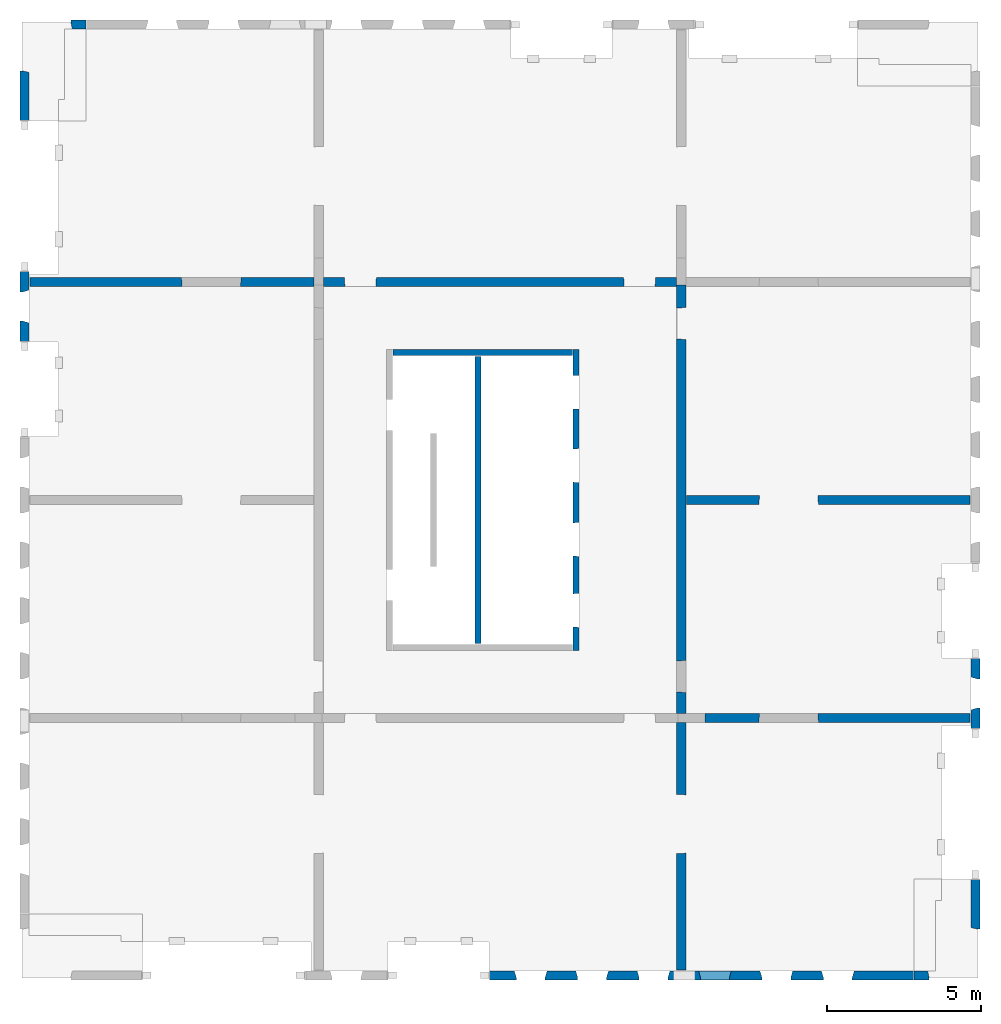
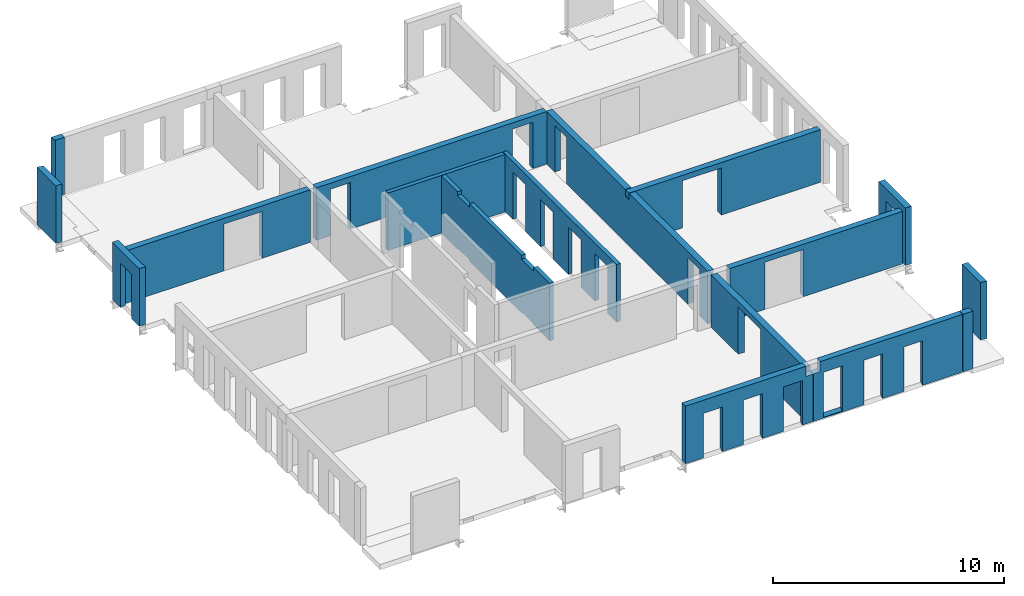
# One storey, part 3 of 4: 17 walls, 36 openings.
"""IFC2X3 building model written with IfcOpenShell, lengths in millimetres."""

from ifc_helpers import new_model, entity, si_unit, converted_unit, derived_unit, direction, frame, frame_2d, origin, origin_2d_with_axis, place, context, subcontext, project, spatial, rectangle, extrude, faceted_brep, material, layer, layer_set, layer_usage, type_object, element, save


model = new_model("IFC2X3")

# Units and contexts
model_context = context("Model", 3, precision=0.01, world=origin(), true_north=direction((6.12303176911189e-17, 1.0)))
body_context = subcontext(model_context, "Body", "Model", "MODEL_VIEW")
ifc_project = project(units=[si_unit("LENGTHUNIT", "METRE", prefix="MILLI"), si_unit("AREAUNIT", "SQUARE_METRE"), si_unit("VOLUMEUNIT", "CUBIC_METRE"), converted_unit("PLANEANGLEUNIT", "DEGREE", entity("IfcRatioMeasure", 0.0174532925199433), si_unit("PLANEANGLEUNIT", "RADIAN"), dimensions=[0, 0, 0, 0, 0, 0, 0]), si_unit("MASSUNIT", "GRAM", prefix="KILO"), derived_unit("MASSDENSITYUNIT", [(si_unit("MASSUNIT", "GRAM", prefix="KILO"), 1), (si_unit("LENGTHUNIT", "METRE"), -3)]), si_unit("TIMEUNIT", "SECOND"), si_unit("FREQUENCYUNIT", "HERTZ"), si_unit("THERMODYNAMICTEMPERATUREUNIT", "DEGREE_CELSIUS"), derived_unit("THERMALTRANSMITTANCEUNIT", [(si_unit("MASSUNIT", "GRAM", prefix="KILO"), 1), (si_unit("THERMODYNAMICTEMPERATUREUNIT", "KELVIN"), -1), (si_unit("TIMEUNIT", "SECOND"), -3)]), derived_unit("VOLUMETRICFLOWRATEUNIT", [(si_unit("LENGTHUNIT", "METRE"), 3), (si_unit("TIMEUNIT", "SECOND"), -1)]), si_unit("ELECTRICCURRENTUNIT", "AMPERE"), si_unit("ELECTRICVOLTAGEUNIT", "VOLT"), si_unit("POWERUNIT", "WATT"), si_unit("FORCEUNIT", "NEWTON", prefix="KILO"), si_unit("ILLUMINANCEUNIT", "LUX"), si_unit("LUMINOUSFLUXUNIT", "LUMEN"), si_unit("LUMINOUSINTENSITYUNIT", "CANDELA"), derived_unit("USERDEFINED", [(si_unit("MASSUNIT", "GRAM", prefix="KILO"), -1), (si_unit("LENGTHUNIT", "METRE"), -2), (si_unit("TIMEUNIT", "SECOND"), 3), (si_unit("LUMINOUSFLUXUNIT", "LUMEN"), 1)]), derived_unit("LINEARVELOCITYUNIT", [(si_unit("LENGTHUNIT", "METRE"), 1), (si_unit("TIMEUNIT", "SECOND"), -1)]), si_unit("PRESSUREUNIT", "PASCAL"), derived_unit("USERDEFINED", [(si_unit("LENGTHUNIT", "METRE"), -2), (si_unit("MASSUNIT", "GRAM", prefix="KILO"), 1), (si_unit("TIMEUNIT", "SECOND"), -2)])], contexts=[model_context])

# Site, building, storey
site_placement = place(None, origin())
site = spatial("IfcSite", under=ifc_project, at=site_placement, Name="Default", CompositionType="ELEMENT")
building_placement = place(site_placement, origin())
building = spatial("IfcBuilding", under=site, at=building_placement, Name="niet gebruiken", CompositionType="ELEMENT")
storey_placement = place(building_placement, frame((0.0, 0.0, 128160.0)))
storey = spatial("IfcBuildingStorey", under=building, at=storey_placement, Name="41 eenenveertigste verdieping", CompositionType="ELEMENT", Elevation=128160.0)

# Wall, openings
ifc_material = material(Name="NLRS_f2_beton prefab")
ifc_layer_1 = layer(ifc_material, 200.0)
ifc_layer_set_1 = layer_set([ifc_layer_1], Name="Basic Wall:NLRS_22.21_WA_beton prefab d=200_gen")
ifc_layer_usage_1 = layer_usage(ifc_layer_set_1, "AXIS2", "NEGATIVE", 100.0)
wall_type_1 = type_object("IfcWallType", Name="Basic Wall:NLRS_22.21_WA_beton prefab d=200_gen", PredefinedType="STANDARD", material=ifc_layer_set_1)
wall_1_placement = place(storey_placement, frame((144230.0, 22400.0, -50.0), z_axis=(0.0, 0.0, 1.0), x_axis=(0.0, -1.0, 0.0)))
wall_1 = element("IfcWallStandardCase", 1, at=wall_1_placement, inside=storey, type_object=wall_type_1, material=ifc_layer_usage_1, Name="Basic Wall:NLRS_22.21_WA_beton prefab d=200_gen", ObjectType="Basic Wall:NLRS_22.21_WA_beton prefab d=200_gen", context=body_context, shape_type="SweptSolid", body=[
    extrude(rectangle(XDim=9800.0, YDim=199.999999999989, at=frame_2d((4900.0, -3.69482222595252e-13), x_axis=(-1.0, 0.0))), origin(), (0.0, 0.0, 1.0), 3040.0),
])
opening_1_placement = place(wall_1_placement, frame((9047.0, -100.0, 0.0)))
element("IfcOpeningElement", 2, at=opening_1_placement, cuts=wall_1, Name="Basic Wall:NLRS_22.21_WA_beton prefab d=200_gen", ObjectType="Opening", context=body_context, shape_type="Brep", body=[
    faceted_brep([(-1104.0, 200.0, 2502.0), (-1104.0, 200.0, 0.0), (-1092.0, 0.0, 0.0), (-1092.0, 0.0, 2490.0), (0.0, 200.0, 0.0), (-12.0, 0.0, 0.0), (-12.0, 0.0, 2490.0), (0.0, 200.0, 2502.0)], [[[0, 1, 2, 3]], [[1, 4, 5, 2]], [[6, 3, 2, 5]], [[7, 4, 1, 0]], [[7, 0, 3, 6]], [[4, 7, 6, 5]]]),
])
opening_2_placement = place(wall_1_placement, frame((6737.0, -100.0, 0.0)))
element("IfcOpeningElement", 3, at=opening_2_placement, cuts=wall_1, Name="Basic Wall:NLRS_22.21_WA_beton prefab d=200_gen", ObjectType="Opening", context=body_context, shape_type="Brep", body=[
    faceted_brep([(-1104.0, 200.0, 2502.0), (-1104.0, 200.0, 0.0), (-1092.0, 0.0, 0.0), (-1092.0, 0.0, 2490.0), (0.0, 200.0, 0.0), (-12.0, 0.0, 0.0), (-12.0, 0.0, 2490.0), (0.0, 200.0, 2502.0)], [[[0, 1, 2, 3]], [[1, 4, 5, 2]], [[6, 3, 2, 5]], [[7, 4, 1, 0]], [[7, 0, 3, 6]], [[4, 7, 6, 5]]]),
])
opening_3_placement = place(wall_1_placement, frame((4332.0, -100.0, 0.0)))
element("IfcOpeningElement", 4, at=opening_3_placement, cuts=wall_1, Name="Basic Wall:NLRS_22.21_WA_beton prefab d=200_gen", ObjectType="Opening", context=body_context, shape_type="Brep", body=[
    faceted_brep([(-1104.0, 200.0, 2502.0), (-1104.0, 200.0, 0.0), (-1092.0, 0.0, 0.0), (-1092.0, 0.0, 2490.0), (0.0, 200.0, 0.0), (-12.0, 0.0, 0.0), (-12.0, 0.0, 2490.0), (0.0, 200.0, 2502.0)], [[[0, 1, 2, 3]], [[1, 4, 5, 2]], [[6, 3, 2, 5]], [[7, 4, 1, 0]], [[7, 0, 3, 6]], [[4, 7, 6, 5]]]),
])
opening_4_placement = place(wall_1_placement, frame((1942.0, -100.0, 0.0)))
element("IfcOpeningElement", 5, at=opening_4_placement, cuts=wall_1, Name="Basic Wall:NLRS_22.21_WA_beton prefab d=200_gen", ObjectType="Opening", context=body_context, shape_type="Brep", body=[
    faceted_brep([(-1104.0, 200.0, 2502.0), (-1104.0, 200.0, 0.0), (-1092.0, 0.0, 0.0), (-1092.0, 0.0, 2490.0), (0.0, 200.0, 0.0), (-12.0, 0.0, 0.0), (-12.0, 0.0, 2490.0), (0.0, 200.0, 2502.0)], [[[0, 1, 2, 3]], [[1, 4, 5, 2]], [[6, 3, 2, 5]], [[7, 4, 1, 0]], [[7, 0, 3, 6]], [[4, 7, 6, 5]]]),
])

ifc_layer_usage_2 = layer_usage(ifc_layer_set_1, "AXIS2", "NEGATIVE", 100.0)
wall_2_placement = place(storey_placement, frame((141030.0, 22180.0, -50.0), z_axis=(0.0, 0.0, 1.0), x_axis=(0.0, -1.0, 0.0)))
wall_2 = element("IfcWallStandardCase", 6, at=wall_2_placement, inside=storey, type_object=wall_type_1, material=ifc_layer_usage_2, Name="Basic Wall:NLRS_22.21_WA_beton prefab d=200_gen", ObjectType="Basic Wall:NLRS_22.21_WA_beton prefab d=200_gen", context=body_context, shape_type="SweptSolid", body=[
    extrude(rectangle(XDim=9360.0, YDim=199.999999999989, at=frame_2d((4680.0, -2.8421709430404e-14), x_axis=(-1.0, 0.0))), origin(), (0.0, 0.0, 1.0), 3040.0),
])
opening_5_placement = place(wall_2_placement, origin())
element("IfcOpeningElement", 7, at=opening_5_placement, cuts=wall_2, Name="Basic Wall:NLRS_22.21_WA_beton prefab d=200_gen", ObjectType="Opening", context=body_context, shape_type="SweptSolid", body=[
    extrude(rectangle(XDim=70.0000000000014, YDim=1044.00000000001, at=frame_2d((-8.66506866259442e-12, 0.0), x_axis=(1.0, 0.0))), frame((7452.0, -100.0, 35.0), z_axis=(0.0, 1.0, 0.0), x_axis=(0.0, 0.0, -1.0)), (0.0, 0.0, 1.0), 199.999999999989),
])
opening_6_placement = place(wall_2_placement, origin())
element("IfcOpeningElement", 8, at=opening_6_placement, cuts=wall_2, Name="Basic Wall:NLRS_22.21_WA_beton prefab d=200_gen", ObjectType="Opening", context=body_context, shape_type="SweptSolid", body=[
    extrude(rectangle(XDim=70.0000000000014, YDim=1044.00000000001, at=frame_2d((-8.66506866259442e-12, 0.0), x_axis=(1.0, 0.0))), frame((1908.0, -100.0, 35.0), z_axis=(0.0, 1.0, 0.0), x_axis=(0.0, 0.0, -1.0)), (0.0, 0.0, 1.0), 199.999999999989),
])
opening_7_placement = place(wall_2_placement, origin())
element("IfcOpeningElement", 9, at=opening_7_placement, cuts=wall_2, Name="Basic Wall:NLRS_22.21_WA_beton prefab d=200_gen", ObjectType="Opening", context=body_context, shape_type="SweptSolid", body=[
    extrude(rectangle(XDim=200.000000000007, YDim=1044.00000000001, at=frame_2d((-8.66862137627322e-12, 0.0), x_axis=(1.0, 0.0))), frame((1908.0, -100.0, 2940.0), z_axis=(0.0, 1.0, 0.0), x_axis=(0.0, 0.0, -1.0)), (0.0, 0.0, 1.0), 199.999999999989),
])
opening_8_placement = place(wall_2_placement, origin())
element("IfcOpeningElement", 10, at=opening_8_placement, cuts=wall_2, Name="Basic Wall:NLRS_22.21_WA_beton prefab d=200_gen", ObjectType="Opening", context=body_context, shape_type="SweptSolid", body=[
    extrude(rectangle(XDim=200.000000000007, YDim=1044.00000000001, at=frame_2d((-8.66862137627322e-12, 0.0), x_axis=(1.0, 0.0))), frame((7452.0, -100.0, 2940.0), z_axis=(0.0, 1.0, 0.0), x_axis=(0.0, 0.0, -1.0)), (0.0, 0.0, 1.0), 199.999999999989),
])
opening_9_placement = place(wall_2_placement, origin())
element("IfcOpeningElement", 11, at=opening_9_placement, cuts=wall_2, Name="Basic Wall:NLRS_22.21_WA_beton prefab d=200_gen", ObjectType="Recess", context=body_context, shape_type="SweptSolid", body=[
    extrude(rectangle(XDim=399.999999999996, YDim=280.000000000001, at=frame_2d((-2.1600499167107e-12, -8.66862137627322e-12), x_axis=(0.0, 1.0))), frame((770.0, -60.0, 438.0), z_axis=(0.0, 1.0, 0.0), x_axis=(1.0, 0.0, 0.0)), (0.0, 0.0, 1.0), 159.999999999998),
])
opening_10_placement = place(wall_2_placement, origin())
element("IfcOpeningElement", 12, at=opening_10_placement, cuts=wall_2, Name="Basic Wall:NLRS_22.21_WA_beton prefab d=200_gen", ObjectType="Recess", context=body_context, shape_type="SweptSolid", body=[
    extrude(rectangle(XDim=399.999999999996, YDim=280.000000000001, at=frame_2d((-2.1600499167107e-12, -8.66862137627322e-12), x_axis=(0.0, 1.0))), frame((1570.0, -60.0, 438.0), z_axis=(0.0, 1.0, 0.0), x_axis=(1.0, 0.0, 0.0)), (0.0, 0.0, 1.0), 159.999999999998),
])
opening_11_placement = place(wall_2_placement, origin())
element("IfcOpeningElement", 13, at=opening_11_placement, cuts=wall_2, Name="Basic Wall:NLRS_22.21_WA_beton prefab d=200_gen", ObjectType="Recess", context=body_context, shape_type="SweptSolid", body=[
    extrude(rectangle(XDim=399.999999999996, YDim=279.999999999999, at=frame_2d((-1.08002495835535e-12, -8.66862137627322e-12), x_axis=(0.0, 1.0))), frame((3160.0, -60.0, 438.0), z_axis=(0.0, 1.0, 0.0), x_axis=(1.0, 0.0, 0.0)), (0.0, 0.0, 1.0), 159.999999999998),
])
opening_12_placement = place(wall_2_placement, origin())
element("IfcOpeningElement", 14, at=opening_12_placement, cuts=wall_2, Name="Basic Wall:NLRS_22.21_WA_beton prefab d=200_gen", ObjectType="Recess", context=body_context, shape_type="SweptSolid", body=[
    extrude(rectangle(XDim=399.999999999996, YDim=279.999999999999, at=frame_2d((1.08002495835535e-12, -8.66862137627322e-12), x_axis=(0.0, 1.0))), frame((3960.0, -60.0, 438.0), z_axis=(0.0, 1.0, 0.0), x_axis=(1.0, 0.0, 0.0)), (0.0, 0.0, 1.0), 159.999999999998),
])

# Wall
ifc_layer_usage_3 = layer_usage(ifc_layer_set_1, "AXIS2", "NEGATIVE", 100.0)
wall_3_placement = place(storey_placement, frame((138270.0, 22300.0, -50.0)))
element("IfcWallStandardCase", 15, at=wall_3_placement, inside=storey, type_object=wall_type_1, material=ifc_layer_usage_3, Name="Basic Wall:NLRS_22.21_WA_beton prefab d=200_gen", ObjectType="Basic Wall:NLRS_22.21_WA_beton prefab d=200_gen", context=body_context, shape_type="SweptSolid", body=[
    extrude(rectangle(XDim=5839.99999999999, YDim=199.999999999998, at=frame_2d((2919.99999999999, -7.60280727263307e-13), x_axis=(-1.0, 0.0))), origin(), (0.0, 0.0, 1.0), 3040.0),
])

# Wall, opening
ifc_layer_2 = layer(ifc_material, 300.0)
ifc_layer_set_2 = layer_set([ifc_layer_2], Name="Basic Wall:NLRS_22.21_WA_beton prefab d=300_gen")
ifc_layer_usage_4 = layer_usage(ifc_layer_set_2, "AXIS2", "NEGATIVE", 150.0)
wall_type_2 = type_object("IfcWallType", Name="Basic Wall:NLRS_22.21_WA_beton prefab d=300_gen", PredefinedType="STANDARD", material=ifc_layer_set_2)
wall_4_placement = place(storey_placement, frame((147650.0, 10250.0, -70.0), z_axis=(0.0, 0.0, 1.0), x_axis=(0.0, -1.0, 0.0)))
wall_4 = element("IfcWallStandardCase", 16, at=wall_4_placement, inside=storey, type_object=wall_type_2, material=ifc_layer_usage_4, Name="Basic Wall:NLRS_22.21_WA_beton prefab d=300_gen", ObjectType="Basic Wall:NLRS_22.21_WA_beton prefab d=300_gen", context=body_context, shape_type="SweptSolid", body=[
    extrude(rectangle(XDim=8059.99999999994, YDim=300.000000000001, at=frame_2d((4029.99999999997, 3.69482222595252e-13), x_axis=(-1.0, 0.0))), origin(), (0.0, 0.0, 1.0), 2769.99999999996),
])
opening_13_placement = place(wall_4_placement, frame((4268.0, -150.0, 0.0)))
element("IfcOpeningElement", 17, at=opening_13_placement, cuts=wall_4, Name="Basic Wall:NLRS_22.21_WA_beton prefab d=300_gen", ObjectType="Opening", context=body_context, shape_type="Brep", body=[
    faceted_brep([(-18.0, 300.0, 2470.0), (-18.0, 300.0, 0.0), (-1918.0, 300.0, 0.0), (-1918.0, 300.0, 2470.0), (0.0, 0.0, 2488.0), (-1936.0, 0.0, 2488.0), (-1936.0, 0.0, 0.0), (0.0, 0.0, 0.0)], [[[0, 1, 2, 3]], [[4, 5, 6, 7]], [[4, 0, 3, 5]], [[5, 3, 2, 6]], [[6, 2, 1, 7]], [[7, 1, 0, 4]]]),
])

# Wall, openings
ifc_layer_usage_5 = layer_usage(ifc_layer_set_2, "AXIS2", "NEGATIVE", 150.0)
wall_5_placement = place(storey_placement, frame((157060.0, 17500.0, -70.0), z_axis=(0.0, 0.0, 1.0), x_axis=(-1.0, 0.0, 0.0)))
wall_5 = element("IfcWallStandardCase", 18, at=wall_5_placement, inside=storey, type_object=wall_type_2, material=ifc_layer_usage_5, Name="Basic Wall:NLRS_22.21_WA_beton prefab d=300_gen", ObjectType="Basic Wall:NLRS_22.21_WA_beton prefab d=300_gen", context=body_context, shape_type="SweptSolid", body=[
    extrude(rectangle(XDim=9559.9999999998, YDim=300.000000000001, at=frame_2d((4779.9999999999, -1.84741111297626e-13), x_axis=(-1.0, 0.0))), origin(), (0.0, 0.0, 1.0), 2770.00000000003),
])
opening_14_placement = place(wall_5_placement, frame((6878.0, 150.0, 0.0)))
element("IfcOpeningElement", 19, at=opening_14_placement, cuts=wall_5, Name="Basic Wall:NLRS_22.21_WA_beton prefab d=300_gen", ObjectType="Opening", context=body_context, shape_type="Brep", body=[
    faceted_brep([(-18.0, -300.0, 2470.0), (-1918.0, -300.0, 2470.0), (-1918.0, -300.0, 0.0), (-18.0, -300.0, 0.0), (0.0, 0.0, 2488.0), (0.0, 0.0, 0.0), (-1936.0, 0.0, 0.0), (-1936.0, 0.0, 2488.0)], [[[0, 1, 2, 3]], [[4, 5, 6, 7]], [[4, 7, 1, 0]], [[7, 6, 2, 1]], [[6, 5, 3, 2]], [[5, 4, 0, 3]]]),
])
opening_15_placement = place(wall_5_placement, origin())
element("IfcOpeningElement", 20, at=opening_15_placement, cuts=wall_5, Name="Basic Wall:NLRS_22.21_WA_beton prefab d=300_gen", ObjectType="Opening", context=body_context, shape_type="SweptSolid", body=[
    extrude(rectangle(XDim=2440.0, YDim=319.999999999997, at=frame_2d((0.0, 0.0), x_axis=(0.0, 1.0))), frame((9400.0, 150.0, 1220.0), z_axis=(0.0, -1.0, 0.0), x_axis=(1.0, 0.0, 0.0)), (0.0, 0.0, 1.0), 300.0),
])

# Wall, opening
ifc_layer_usage_6 = layer_usage(ifc_layer_set_2, "AXIS2", "NEGATIVE", 150.0)
wall_6_placement = place(storey_placement, frame((135700.0, 24600.0, -70.0), z_axis=(0.0, 0.0, 1.0), x_axis=(-1.0, 0.0, 0.0)))
wall_6 = element("IfcWallStandardCase", 21, at=wall_6_placement, inside=storey, type_object=wall_type_2, material=ifc_layer_usage_6, Name="Basic Wall:NLRS_22.21_WA_beton prefab d=300_gen", ObjectType="Basic Wall:NLRS_22.21_WA_beton prefab d=300_gen", context=body_context, shape_type="SweptSolid", body=[
    extrude(rectangle(XDim=9259.99999999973, YDim=300.000000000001, at=frame_2d((4629.99999999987, -2.41584530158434e-13), x_axis=(-1.0, 0.0))), origin(), (0.0, 0.0, 1.0), 2769.99999999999),
])
opening_16_placement = place(wall_6_placement, frame((4318.0, 150.0, 0.0)))
element("IfcOpeningElement", 22, at=opening_16_placement, cuts=wall_6, Name="Basic Wall:NLRS_22.21_WA_beton prefab d=300_gen", ObjectType="Opening", context=body_context, shape_type="Brep", body=[
    faceted_brep([(-1918.0, 0.0, 2470.0), (-18.0, 0.0, 2470.0), (-18.0, 0.0, 0.0), (-1918.0, 0.0, 0.0), (-1936.0, -300.0, 2488.0), (-1936.0, -300.0, 0.0), (0.0, -300.0, 0.0), (0.0, -300.0, 2488.0)], [[[0, 1, 2, 3]], [[4, 5, 6, 7]], [[4, 7, 1, 0]], [[7, 6, 2, 1]], [[6, 5, 3, 2]], [[5, 4, 0, 3]]]),
])

ifc_layer_usage_7 = layer_usage(ifc_layer_set_2, "AXIS2", "NEGATIVE", 150.0)
wall_7_placement = place(storey_placement, frame((148430.0, 10400.0, -70.0)))
wall_7 = element("IfcWallStandardCase", 23, at=wall_7_placement, inside=storey, type_object=wall_type_2, material=ifc_layer_usage_7, Name="Basic Wall:NLRS_22.21_WA_beton prefab d=300_gen", ObjectType="Basic Wall:NLRS_22.21_WA_beton prefab d=300_gen", context=body_context, shape_type="SweptSolid", body=[
    extrude(rectangle(XDim=8630.00000000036, YDim=300.000000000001, at=frame_2d((4315.00000000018, 0.0), x_axis=(-1.0, 0.0))), origin(), (0.0, 0.0, 1.0), 2769.99999999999),
])
opening_17_placement = place(wall_7_placement, frame((1752.0, -150.0, 0.0)))
element("IfcOpeningElement", 24, at=opening_17_placement, cuts=wall_7, Name="Basic Wall:NLRS_22.21_WA_beton prefab d=300_gen", ObjectType="Opening", context=body_context, shape_type="Brep", body=[
    faceted_brep([(18.0, 300.0, 2470.0), (1918.0, 300.0, 2470.0), (1918.0, 300.0, 0.0), (18.0, 300.0, 0.0), (0.0, 0.0, 2488.0), (0.0, 0.0, 0.0), (1936.0, 0.0, 0.0), (1936.0, 0.0, 2488.0)], [[[0, 1, 2, 3]], [[4, 5, 6, 7]], [[4, 7, 1, 0]], [[7, 6, 2, 1]], [[6, 5, 3, 2]], [[5, 4, 0, 3]]]),
])

# Wall, openings
ifc_layer_usage_8 = layer_usage(ifc_layer_set_2, "AXIS2", "NEGATIVE", 150.0)
wall_8_placement = place(storey_placement, frame((147650.0, 24500.0, -70.0), z_axis=(0.0, 0.0, 1.0), x_axis=(0.0, -1.0, 0.0)))
wall_8 = element("IfcWallStandardCase", 25, at=wall_8_placement, inside=storey, type_object=wall_type_2, material=ifc_layer_usage_8, Name="Basic Wall:NLRS_22.21_WA_beton prefab d=300_gen", ObjectType="Basic Wall:NLRS_22.21_WA_beton prefab d=300_gen", context=body_context, shape_type="SweptSolid", body=[
    extrude(rectangle(XDim=13949.9999999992, YDim=300.000000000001, at=frame_2d((6974.9999999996, 4.2632564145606e-14), x_axis=(-1.0, 0.0))), origin(), (0.0, 0.0, 1.0), 2770.00000000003),
])
opening_18_placement = place(wall_8_placement, frame((13268.0, -150.0, 0.0)))
element("IfcOpeningElement", 26, at=opening_18_placement, cuts=wall_8, Name="Basic Wall:NLRS_22.21_WA_beton prefab d=300_gen", ObjectType="Opening", context=body_context, shape_type="Brep", body=[
    faceted_brep([(-1042.0, 300.0, 2466.0), (-1042.0, 300.0, 0.0), (-1024.0, 0.0, 0.0), (-1024.0, 0.0, 2448.0), (0.0, 300.0, 0.0), (-18.0, 0.0, 0.0), (-18.0, 0.0, 2448.0), (0.0, 300.0, 2466.0)], [[[0, 1, 2, 3]], [[1, 4, 5, 2]], [[6, 3, 2, 5]], [[7, 4, 1, 0]], [[7, 0, 3, 6]], [[4, 7, 6, 5]]]),
])
opening_19_placement = place(wall_8_placement, frame((1774.0, -150.0, 0.0)))
element("IfcOpeningElement", 27, at=opening_19_placement, cuts=wall_8, Name="Basic Wall:NLRS_22.21_WA_beton prefab d=300_gen", ObjectType="Opening", context=body_context, shape_type="Brep", body=[
    faceted_brep([(-1042.0, 300.0, 2466.0), (-1042.0, 300.0, 0.0), (-1024.0, 0.0, 0.0), (-1024.0, 0.0, 2448.0), (0.0, 300.0, 0.0), (-18.0, 0.0, 0.0), (-18.0, 0.0, 2448.0), (0.0, 300.0, 2466.0)], [[[0, 1, 2, 3]], [[1, 4, 5, 2]], [[6, 3, 2, 5]], [[7, 4, 1, 0]], [[7, 0, 3, 6]], [[4, 7, 6, 5]]]),
])
opening_20_placement = place(wall_8_placement, origin())
element("IfcOpeningElement", 28, at=opening_20_placement, cuts=wall_8, Name="Basic Wall:NLRS_22.21_WA_beton prefab d=300_gen", ObjectType="Opening", context=body_context, shape_type="SweptSolid", body=[
    extrude(rectangle(XDim=350.000000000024, YDim=340.000000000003, at=frame_2d((-1.08002495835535e-12, -1.73230318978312e-11), x_axis=(0.0, 1.0))), frame((7000.0, 150.0, 2595.0), z_axis=(0.0, -1.0, 0.0), x_axis=(-1.0, 0.0, 0.0)), (0.0, 0.0, 1.0), 300.0),
])

ifc_layer_usage_9 = layer_usage(ifc_layer_set_2, "AXIS2", "NEGATIVE", 150.0)
wall_9_placement = place(storey_placement, frame((136000.0, 24600.0, -70.0)))
wall_9 = element("IfcWallStandardCase", 29, at=wall_9_placement, inside=storey, type_object=wall_type_2, material=ifc_layer_usage_9, Name="Basic Wall:NLRS_22.21_WA_beton prefab d=300_gen", ObjectType="Basic Wall:NLRS_22.21_WA_beton prefab d=300_gen", context=body_context, shape_type="SweptSolid", body=[
    extrude(rectangle(XDim=11500.0, YDim=300.000000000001, at=frame_2d((5750.0, -1.08002495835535e-12), x_axis=(-1.0, 0.0))), origin(), (0.0, 0.0, 1.0), 2769.99999999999),
])
opening_21_placement = place(wall_9_placement, frame((682.0, -150.0, 0.0)))
element("IfcOpeningElement", 30, at=opening_21_placement, cuts=wall_9, Name="Basic Wall:NLRS_22.21_WA_beton prefab d=300_gen", ObjectType="Opening", context=body_context, shape_type="Brep", body=[
    faceted_brep([(0.0, 300.0, 2466.0), (0.0, 300.0, 0.0), (18.0, 0.0, 0.0), (18.0, 0.0, 2448.0), (1042.0, 300.0, 0.0), (1024.0, 0.0, 0.0), (1024.0, 0.0, 2448.0), (1042.0, 300.0, 2466.0)], [[[0, 1, 2, 3]], [[1, 4, 5, 2]], [[6, 3, 2, 5]], [[7, 4, 1, 0]], [[7, 0, 3, 6]], [[4, 7, 6, 5]]]),
])
opening_22_placement = place(wall_9_placement, frame((9776.0, -150.0, 0.0)))
element("IfcOpeningElement", 31, at=opening_22_placement, cuts=wall_9, Name="Basic Wall:NLRS_22.21_WA_beton prefab d=300_gen", ObjectType="Opening", context=body_context, shape_type="Brep", body=[
    faceted_brep([(0.0, 300.0, 2466.0), (0.0, 300.0, 0.0), (18.0, 0.0, 0.0), (18.0, 0.0, 2448.0), (1042.0, 300.0, 0.0), (1024.0, 0.0, 0.0), (1024.0, 0.0, 2448.0), (1042.0, 300.0, 2466.0)], [[[0, 1, 2, 3]], [[1, 4, 5, 2]], [[6, 3, 2, 5]], [[7, 4, 1, 0]], [[7, 0, 3, 6]], [[4, 7, 6, 5]]]),
])

# Wall, opening
ifc_layer_3 = layer(ifc_material, 300.0)
ifc_layer_set_3 = layer_set([ifc_layer_3], Name="Basic Wall:NLRS_21.21_WA_beton prefab d=300/320_gen")
ifc_layer_usage_10 = layer_usage(ifc_layer_set_3, "AXIS2", "NEGATIVE", 150.0)
wall_type_3 = type_object("IfcWallType", Name="Basic Wall:NLRS_21.21_WA_beton prefab d=300/320_gen", PredefinedType="STANDARD", material=ifc_layer_set_3)
wall_10_placement = place(storey_placement, frame((157230.0, 12360.0, -50.0), z_axis=(0.0, 0.0, 1.0), x_axis=(0.0, -1.0, 0.0)))
wall_10 = element("IfcWallStandardCase", 32, at=wall_10_placement, inside=storey, type_object=wall_type_3, material=ifc_layer_usage_10, Name="Basic Wall:NLRS_21.21_WA_beton prefab d=300/320_gen", ObjectType="Basic Wall:NLRS_21.21_WA_beton prefab d=300/320_gen", context=body_context, shape_type="SweptSolid", body=[
    extrude(rectangle(XDim=2320.00000000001, YDim=300.000000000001, at=frame_2d((1160.0, -8.38440428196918e-12), x_axis=(-1.0, 0.0))), origin(), (0.0, 0.0, 1.0), 3040.0),
])
opening_23_placement = place(wall_10_placement, frame((1695.0, -150.0, -20.0)))
element("IfcOpeningElement", 33, at=opening_23_placement, cuts=wall_10, Name="Basic Wall:NLRS_21.21_WA_beton prefab d=300/320_gen", ObjectType="Opening", context=body_context, shape_type="Brep", body=[
    faceted_brep([(-1070.0, 0.0, 2405.0), (-1070.0, 0.0, 0.0), (0.0, 0.0, 0.0), (0.0, 0.0, 2405.0), (-65.0, 219.0, 2370.0), (-1005.0, 219.0, 2370.0), (-65.0, 219.0, 0.0), (-1005.0, 219.0, 0.0), (-1005.0, 300.0, 0.0), (-65.0, 300.0, 0.0), (-1005.0, 300.0, 2370.0), (-65.0, 300.0, 2370.0)], [[[0, 1, 2, 3]], [[3, 4, 5, 0]], [[2, 6, 4, 3]], [[1, 7, 8, 9, 6, 2]], [[0, 5, 7, 1]], [[10, 11, 9, 8]], [[10, 5, 4, 11]], [[11, 4, 6, 9]], [[8, 7, 5, 10]]]),
])

ifc_layer_usage_11 = layer_usage(ifc_layer_set_3, "AXIS2", "NEGATIVE", 150.0)
wall_11_placement = place(storey_placement, frame((126270.0, 22640.0, -50.0), z_axis=(0.0, 0.0, 1.0), x_axis=(0.0, 1.0, 0.0)))
wall_11 = element("IfcWallStandardCase", 34, at=wall_11_placement, inside=storey, type_object=wall_type_3, material=ifc_layer_usage_11, Name="Basic Wall:NLRS_21.21_WA_beton prefab d=300/320_gen", ObjectType="Basic Wall:NLRS_21.21_WA_beton prefab d=300/320_gen", context=body_context, shape_type="SweptSolid", body=[
    extrude(rectangle(XDim=2320.0, YDim=300.000000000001, at=frame_2d((1160.0, -3.60955709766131e-12), x_axis=(-1.0, 0.0))), origin(), (0.0, 0.0, 1.0), 3040.0),
])
opening_24_placement = place(wall_11_placement, frame((625.0, 150.0, -20.0)))
element("IfcOpeningElement", 35, at=opening_24_placement, cuts=wall_11, Name="Basic Wall:NLRS_21.21_WA_beton prefab d=300/320_gen", ObjectType="Opening", context=body_context, shape_type="Brep", body=[
    faceted_brep([(0.0, -300.0, 2405.0), (0.0, -300.0, 0.0), (1070.0, -300.0, 0.0), (1070.0, -300.0, 2405.0), (1005.0, -81.0, 2370.0), (65.0, -81.0, 2370.0), (1005.0, -81.0, 0.0), (65.0, -81.0, 0.0), (65.0, 0.0, 0.0), (1005.0, 0.0, 0.0), (65.0, 0.0, 2370.0), (1005.0, 0.0, 2370.0)], [[[0, 1, 2, 3]], [[3, 4, 5, 0]], [[2, 6, 4, 3]], [[1, 7, 8, 9, 6, 2]], [[0, 5, 7, 1]], [[10, 11, 9, 8]], [[10, 5, 4, 11]], [[11, 4, 6, 9]], [[8, 7, 5, 10]]]),
])

# Wall, openings
ifc_layer_usage_12 = layer_usage(ifc_layer_set_3, "AXIS2", "NEGATIVE", 150.0)
wall_12_placement = place(storey_placement, frame((155210.0, 2020.0, -50.0), z_axis=(0.0, 0.0, 1.0), x_axis=(-1.0, 0.0, 0.0)))
wall_12 = element("IfcWallStandardCase", 36, at=wall_12_placement, inside=storey, type_object=wall_type_3, material=ifc_layer_usage_12, Name="Basic Wall:NLRS_21.21_WA_beton prefab d=300/320_gen", ObjectType="Basic Wall:NLRS_21.21_WA_beton prefab d=300/320_gen", context=body_context, shape_type="SweptSolid", body=[
    extrude(rectangle(XDim=7449.99999999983, YDim=300.0, at=frame_2d((3724.99999999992, 5.6843418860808e-14), x_axis=(-1.0, 0.0))), origin(), (0.0, 0.0, 1.0), 3040.0),
])
opening_25_placement = place(wall_12_placement, frame((4995.0, 150.0, -20.0)))
element("IfcOpeningElement", 37, at=opening_25_placement, cuts=wall_12, Name="Basic Wall:NLRS_21.21_WA_beton prefab d=300/320_gen", ObjectType="Opening", context=body_context, shape_type="Brep", body=[
    faceted_brep([(0.0, -300.0, 2405.0), (-1070.0, -300.0, 2405.0), (-1070.0, -300.0, 0.0), (0.0, -300.0, 0.0), (-65.0, -81.0, 2370.0), (-1005.0, -81.0, 2370.0), (-1005.0, -81.0, 0.0), (-1005.0, 0.0, 0.0), (-65.0, 0.0, 0.0), (-65.0, -81.0, 0.0), (-65.0, 0.0, 2370.0), (-1005.0, 0.0, 2370.0)], [[[0, 1, 2, 3]], [[1, 0, 4, 5]], [[2, 1, 5, 6]], [[3, 2, 6, 7, 8, 9]], [[0, 3, 9, 4]], [[10, 8, 7, 11]], [[10, 11, 5, 4]], [[11, 7, 6, 5]], [[8, 10, 4, 9]]]),
])
opening_26_placement = place(wall_12_placement, frame((2995.0, 150.0, -20.0)))
element("IfcOpeningElement", 38, at=opening_26_placement, cuts=wall_12, Name="Basic Wall:NLRS_21.21_WA_beton prefab d=300/320_gen", ObjectType="Opening", context=body_context, shape_type="Brep", body=[
    faceted_brep([(0.0, -300.0, 2405.0), (-1070.0, -300.0, 2405.0), (-1070.0, -300.0, 0.0), (0.0, -300.0, 0.0), (-65.0, -81.0, 2370.0), (-1005.0, -81.0, 2370.0), (-1005.0, -81.0, 0.0), (-1005.0, 0.0, 0.0), (-65.0, 0.0, 0.0), (-65.0, -81.0, 0.0), (-65.0, 0.0, 2370.0), (-1005.0, 0.0, 2370.0)], [[[0, 1, 2, 3]], [[1, 0, 4, 5]], [[2, 1, 5, 6]], [[3, 2, 6, 7, 8, 9]], [[0, 3, 9, 4]], [[10, 8, 7, 11]], [[10, 11, 5, 4]], [[11, 7, 6, 5]], [[8, 10, 4, 9]]]),
])
opening_27_placement = place(wall_12_placement, frame((6995.0, 150.0, 50.0)))
element("IfcOpeningElement", 39, at=opening_27_placement, cuts=wall_12, Name="Basic Wall:NLRS_21.21_WA_beton prefab d=300/320_gen", ObjectType="Opening", context=body_context, shape_type="Brep", body=[
    faceted_brep([(0.0, -300.0, 2405.0), (-1070.0, -300.0, 2405.0), (-1070.0, -300.0, 0.0), (0.0, -300.0, 0.0), (-65.0, -81.0, 2370.0), (-1005.0, -81.0, 2370.0), (-1005.0, -81.0, 0.0), (-1005.0, 0.0, 0.0), (-65.0, 0.0, 0.0), (-65.0, -81.0, 0.0), (-65.0, 0.0, 2370.0), (-1005.0, 0.0, 2370.0)], [[[0, 1, 2, 3]], [[1, 0, 4, 5]], [[2, 1, 5, 6]], [[3, 2, 6, 7, 8, 9]], [[0, 3, 9, 4]], [[10, 8, 7, 11]], [[10, 11, 5, 4]], [[11, 7, 6, 5]], [[8, 10, 4, 9]]]),
])
opening_28_placement = place(wall_12_placement, origin())
element("IfcOpeningElement", 40, at=opening_28_placement, cuts=wall_12, Name="Basic Wall:NLRS_21.21_WA_beton prefab d=300/320_gen", ObjectType="Opening", context=body_context, shape_type="SweptSolid", body=[
    extrude(rectangle(XDim=535.0, YDim=344.999999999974, at=origin_2d_with_axis()), frame((7277.49999999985, 150.0, 2772.5), z_axis=(0.0, -1.0, 0.0), x_axis=(0.0, 0.0, 1.0)), (0.0, 0.0, 1.0), 300.0),
])

# Wall, opening
ifc_layer_usage_13 = layer_usage(ifc_layer_set_3, "AXIS2", "NEGATIVE", 150.0)
wall_13_placement = place(storey_placement, frame((127780.0, 32980.0, -50.0)))
wall_13 = element("IfcWallStandardCase", 41, at=wall_13_placement, inside=storey, type_object=wall_type_3, material=ifc_layer_usage_13, Name="Basic Wall:NLRS_21.21_WA_beton prefab d=300/320_gen", ObjectType="Basic Wall:NLRS_21.21_WA_beton prefab d=300/320_gen", context=body_context, shape_type="SweptSolid", body=[
    extrude(rectangle(XDim=489.999999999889, YDim=300.000000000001, at=frame_2d((244.999999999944, -6.67910171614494e-13), x_axis=(-1.0, 0.0))), origin(), (0.0, 0.0, 1.0), 3040.0),
])
opening_29_placement = place(wall_13_placement, frame((0.0, -250.0, 0.0)))
element("IfcOpeningElement", 42, at=opening_29_placement, cuts=wall_13, Name="Basic Wall:NLRS_21.21_WA_beton prefab d=300/320_gen", ObjectType="Opening", context=body_context, shape_type="Brep", body=[
    faceted_brep([(0.0, 0.0, 3040.0), (65.0, 0.0, 3040.0), (0.0, 319.0, 3040.0), (0.0, 0.0, 0.0), (0.0, 319.0, 0.0), (65.0, 0.0, 0.0)], [[[0, 1, 2]], [[3, 4, 5]], [[1, 0, 3, 5]], [[0, 2, 4, 3]], [[2, 1, 5, 4]]]),
])

ifc_layer_usage_14 = layer_usage(ifc_layer_set_3, "AXIS2", "NEGATIVE", 150.0)
wall_14_placement = place(storey_placement, frame((126270.0, 29840.0, -50.0), z_axis=(0.0, 0.0, 1.0), x_axis=(0.0, 1.0, 0.0)))
wall_14 = element("IfcWallStandardCase", 43, at=wall_14_placement, inside=storey, type_object=wall_type_3, material=ifc_layer_usage_14, Name="Basic Wall:NLRS_21.21_WA_beton prefab d=300/320_gen", ObjectType="Basic Wall:NLRS_21.21_WA_beton prefab d=300/320_gen", context=body_context, shape_type="SweptSolid", body=[
    extrude(rectangle(XDim=1629.99999999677, YDim=300.000000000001, at=frame_2d((814.999999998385, 8.95283847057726e-13), x_axis=(-1.0, 0.0))), origin(), (0.0, 0.0, 1.0), 3040.0),
])
opening_30_placement = place(wall_14_placement, frame((1565.0, 69.0, 0.0)))
element("IfcOpeningElement", 44, at=opening_30_placement, cuts=wall_14, Name="Basic Wall:NLRS_21.21_WA_beton prefab d=300/320_gen", ObjectType="Opening", context=body_context, shape_type="Brep", body=[
    faceted_brep([(65.0, -319.0, 3040.0), (65.0, 0.0, 3040.0), (0.0, -319.0, 3040.0), (65.0, -319.0, 0.0), (0.0, -319.0, 0.0), (65.0, 0.0, 0.0)], [[[0, 1, 2]], [[3, 4, 5]], [[2, 4, 3, 0]], [[0, 3, 5, 1]], [[1, 5, 4, 2]]]),
])

ifc_layer_usage_15 = layer_usage(ifc_layer_set_3, "AXIS2", "NEGATIVE", 150.0)
wall_15_placement = place(storey_placement, frame((155720.0, 2020.0, -50.0), z_axis=(0.0, 0.0, 1.0), x_axis=(-1.0, 0.0, 0.0)))
wall_15 = element("IfcWallStandardCase", 45, at=wall_15_placement, inside=storey, type_object=wall_type_3, material=ifc_layer_usage_15, Name="Basic Wall:NLRS_21.21_WA_beton prefab d=300/320_gen", ObjectType="Basic Wall:NLRS_21.21_WA_beton prefab d=300/320_gen", context=body_context, shape_type="SweptSolid", body=[
    extrude(rectangle(XDim=489.999999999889, YDim=300.0, at=frame_2d((244.999999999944, 4.2632564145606e-14), x_axis=(-1.0, 0.0))), origin(), (0.0, 0.0, 1.0), 3040.0),
])
opening_31_placement = place(wall_15_placement, frame((65.0, 69.0, 0.0)))
element("IfcOpeningElement", 46, at=opening_31_placement, cuts=wall_15, Name="Basic Wall:NLRS_21.21_WA_beton prefab d=300/320_gen", ObjectType="Opening", context=body_context, shape_type="Brep", body=[
    faceted_brep([(-65.0, -319.0, 3040.0), (0.0, -319.0, 3040.0), (-65.0, 0.0, 3040.0), (-65.0, -319.0, 0.0), (-65.0, 0.0, 0.0), (0.0, -319.0, 0.0)], [[[0, 1, 2]], [[3, 4, 5]], [[1, 0, 3, 5]], [[0, 2, 4, 3]], [[2, 1, 5, 4]]]),
])

ifc_layer_usage_16 = layer_usage(ifc_layer_set_3, "AXIS2", "NEGATIVE", 150.0)
wall_16_placement = place(storey_placement, frame((157230.0, 5160.0, -50.0), z_axis=(0.0, 0.0, 1.0), x_axis=(0.0, -1.0, 0.0)))
wall_16 = element("IfcWallStandardCase", 47, at=wall_16_placement, inside=storey, type_object=wall_type_3, material=ifc_layer_usage_16, Name="Basic Wall:NLRS_21.21_WA_beton prefab d=300/320_gen", ObjectType="Basic Wall:NLRS_21.21_WA_beton prefab d=300/320_gen", context=body_context, shape_type="SweptSolid", body=[
    extrude(rectangle(XDim=1629.99999999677, YDim=300.000000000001, at=frame_2d((814.999999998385, 4.76063632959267e-12), x_axis=(-1.0, 0.0))), origin(), (0.0, 0.0, 1.0), 3040.0),
])
opening_32_placement = place(wall_16_placement, frame((1630.0, -250.0, 0.0)))
element("IfcOpeningElement", 48, at=opening_32_placement, cuts=wall_16, Name="Basic Wall:NLRS_21.21_WA_beton prefab d=300/320_gen", ObjectType="Opening", context=body_context, shape_type="Brep", body=[
    faceted_brep([(0.0, 0.0, 3040.0), (0.0, 319.0, 3040.0), (-65.0, 0.0, 3040.0), (0.0, 0.0, 0.0), (-65.0, 0.0, 0.0), (0.0, 319.0, 0.0)], [[[0, 1, 2]], [[3, 4, 5]], [[2, 4, 3, 0]], [[0, 3, 5, 1]], [[1, 5, 4, 2]]]),
])

# Wall, openings
ifc_layer_usage_17 = layer_usage(ifc_layer_set_3, "AXIS2", "NEGATIVE", 150.0)
wall_17_placement = place(storey_placement, frame((147740.0, 2020.0, -50.0), z_axis=(0.0, 0.0, 1.0), x_axis=(-1.0, 0.0, 0.0)))
wall_17 = element("IfcWallStandardCase", 49, at=wall_17_placement, inside=storey, type_object=wall_type_3, material=ifc_layer_usage_17, Name="Basic Wall:NLRS_21.21_WA_beton prefab d=300/320_gen", ObjectType="Basic Wall:NLRS_21.21_WA_beton prefab d=300/320_gen", context=body_context, shape_type="SweptSolid", body=[
    extrude(rectangle(XDim=6350.00000000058, YDim=300.0, at=frame_2d((3175.00000000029, -4.2632564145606e-14), x_axis=(-1.0, 0.0))), origin(), (0.0, 0.0, 1.0), 3040.0),
])
opening_33_placement = place(wall_17_placement, frame((1525.0, 150.0, -20.0)))
element("IfcOpeningElement", 50, at=opening_33_placement, cuts=wall_17, Name="Basic Wall:NLRS_21.21_WA_beton prefab d=300/320_gen", ObjectType="Opening", context=body_context, shape_type="Brep", body=[
    faceted_brep([(0.0, -300.0, 2405.0), (-1070.0, -300.0, 2405.0), (-1070.0, -300.0, 0.0), (0.0, -300.0, 0.0), (-65.0, -81.0, 2370.0), (-1005.0, -81.0, 2370.0), (-1005.0, -81.0, 0.0), (-1005.0, 0.0, 0.0), (-65.0, 0.0, 0.0), (-65.0, -81.0, 0.0), (-65.0, 0.0, 2370.0), (-1005.0, 0.0, 2370.0)], [[[0, 1, 2, 3]], [[1, 0, 4, 5]], [[2, 1, 5, 6]], [[3, 2, 6, 7, 8, 9]], [[0, 3, 9, 4]], [[10, 8, 7, 11]], [[10, 11, 5, 4]], [[11, 7, 6, 5]], [[8, 10, 4, 9]]]),
])
opening_34_placement = place(wall_17_placement, frame((3525.0, 150.0, -20.0)))
element("IfcOpeningElement", 51, at=opening_34_placement, cuts=wall_17, Name="Basic Wall:NLRS_21.21_WA_beton prefab d=300/320_gen", ObjectType="Opening", context=body_context, shape_type="Brep", body=[
    faceted_brep([(0.0, -300.0, 2405.0), (-1070.0, -300.0, 2405.0), (-1070.0, -300.0, 0.0), (0.0, -300.0, 0.0), (-65.0, -81.0, 2370.0), (-1005.0, -81.0, 2370.0), (-1005.0, -81.0, 0.0), (-1005.0, 0.0, 0.0), (-65.0, 0.0, 0.0), (-65.0, -81.0, 0.0), (-65.0, 0.0, 2370.0), (-1005.0, 0.0, 2370.0)], [[[0, 1, 2, 3]], [[1, 0, 4, 5]], [[2, 1, 5, 6]], [[3, 2, 6, 7, 8, 9]], [[0, 3, 9, 4]], [[10, 8, 7, 11]], [[10, 11, 5, 4]], [[11, 7, 6, 5]], [[8, 10, 4, 9]]]),
])
opening_35_placement = place(wall_17_placement, frame((5525.0, 150.0, -20.0)))
element("IfcOpeningElement", 52, at=opening_35_placement, cuts=wall_17, Name="Basic Wall:NLRS_21.21_WA_beton prefab d=300/320_gen", ObjectType="Opening", context=body_context, shape_type="Brep", body=[
    faceted_brep([(0.0, -300.0, 2405.0), (-1070.0, -300.0, 2405.0), (-1070.0, -300.0, 0.0), (0.0, -300.0, 0.0), (-65.0, -81.0, 2370.0), (-1005.0, -81.0, 2370.0), (-1005.0, -81.0, 0.0), (-1005.0, 0.0, 0.0), (-65.0, 0.0, 0.0), (-65.0, -81.0, 0.0), (-65.0, 0.0, 2370.0), (-1005.0, 0.0, 2370.0)], [[[0, 1, 2, 3]], [[1, 0, 4, 5]], [[2, 1, 5, 6]], [[3, 2, 6, 7, 8, 9]], [[0, 3, 9, 4]], [[10, 8, 7, 11]], [[10, 11, 5, 4]], [[11, 7, 6, 5]], [[8, 10, 4, 9]]]),
])
opening_36_placement = place(wall_17_placement, origin())
element("IfcOpeningElement", 53, at=opening_36_placement, cuts=wall_17, Name="Basic Wall:NLRS_21.21_WA_beton prefab d=300/320_gen", ObjectType="Opening", context=body_context, shape_type="SweptSolid", body=[
    extrude(rectangle(XDim=534.999999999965, YDim=345.000000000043, at=frame_2d((0.0, 0.0), x_axis=(0.0, 1.0))), frame((172.500000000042, 150.0, 2772.5), z_axis=(0.0, -1.0, 0.0), x_axis=(-1.0, 0.0, 0.0)), (0.0, 0.0, 1.0), 300.0),
])

save(model, "model.ifc")
